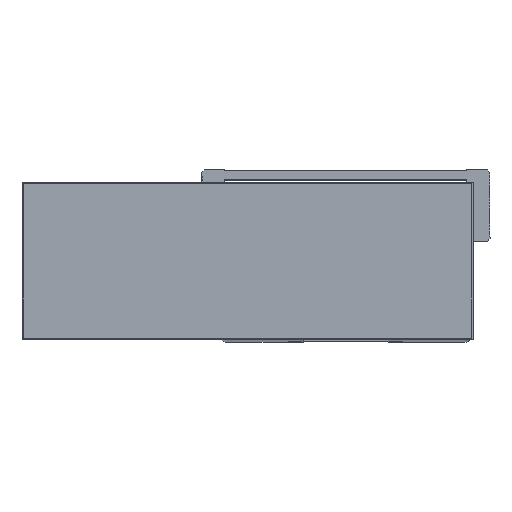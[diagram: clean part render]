
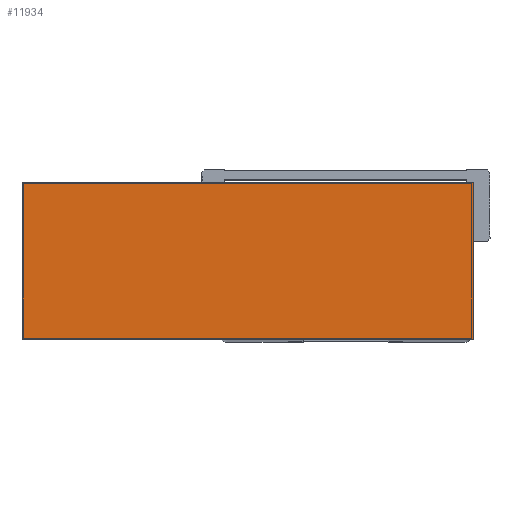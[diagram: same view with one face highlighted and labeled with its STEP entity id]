
A CAD part, top view. The second image highlights one B-rep face of the part: STEP entity #11934.
In plain terms, the highlighted planar face has unit normal (0, 0, 1).
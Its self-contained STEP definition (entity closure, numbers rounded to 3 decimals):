
#755 = DIRECTION ( 'NONE',  ( 0., -1., 0. ) ) ;
#3586 = DIRECTION ( 'NONE',  ( -1., 0., 0. ) ) ;
#5031 = VERTEX_POINT ( 'NONE', #17246 ) ;
#5321 = CARTESIAN_POINT ( 'NONE',  ( 0., 109., 70. ) ) ;
#7293 = VECTOR ( 'NONE', #33624, 1000. ) ;
#9044 = VECTOR ( 'NONE', #32245, 1000. ) ;
#10205 = CARTESIAN_POINT ( 'NONE',  ( 0., 0., 70. ) ) ;
#11934 = ADVANCED_FACE ( 'NONE', ( #13000 ), #19141, .F. ) ;
#12474 = VERTEX_POINT ( 'NONE', #19221 ) ;
#13000 = FACE_OUTER_BOUND ( 'NONE', #38292, .T. ) ;
#16284 = CARTESIAN_POINT ( 'NONE',  ( 0., 0., 70. ) ) ;
#16906 = EDGE_CURVE ( 'NONE', #12474, #38290, #28155, .T. ) ;
#17246 = CARTESIAN_POINT ( 'NONE',  ( 0., 109., 70. ) ) ;
#17317 = LINE ( 'NONE', #10205, #9044 ) ;
#19141 = PLANE ( 'NONE',  #19644 ) ;
#19221 = CARTESIAN_POINT ( 'NONE',  ( 313., 0., 70. ) ) ;
#19644 = AXIS2_PLACEMENT_3D ( 'NONE', #31703, #22277, #3586 ) ;
#20732 = VECTOR ( 'NONE', #35392, 1000. ) ;
#21128 = VECTOR ( 'NONE', #755, 1000. ) ;
#22232 = CARTESIAN_POINT ( 'NONE',  ( 313., 109., 70. ) ) ;
#22277 = DIRECTION ( 'NONE',  ( 0., 0., -1. ) ) ;
#23811 = EDGE_CURVE ( 'NONE', #24776, #12474, #17317, .T. ) ;
#23871 = LINE ( 'NONE', #5321, #7293 ) ;
#24776 = VERTEX_POINT ( 'NONE', #37495 ) ;
#26868 = ORIENTED_EDGE ( 'NONE', *, *, #40769, .T. ) ;
#27065 = EDGE_CURVE ( 'NONE', #38290, #5031, #23871, .T. ) ;
#27135 = ORIENTED_EDGE ( 'NONE', *, *, #23811, .T. ) ;
#28155 = LINE ( 'NONE', #35527, #20732 ) ;
#31703 = CARTESIAN_POINT ( 'NONE',  ( 0., 0., 70. ) ) ;
#32245 = DIRECTION ( 'NONE',  ( 1., 0., 0. ) ) ;
#33624 = DIRECTION ( 'NONE',  ( -1., 0., 0. ) ) ;
#35392 = DIRECTION ( 'NONE',  ( 0., 1., 0. ) ) ;
#35527 = CARTESIAN_POINT ( 'NONE',  ( 313., 0., 70. ) ) ;
#35599 = ORIENTED_EDGE ( 'NONE', *, *, #27065, .T. ) ;
#37495 = CARTESIAN_POINT ( 'NONE',  ( 0., 0., 70. ) ) ;
#38290 = VERTEX_POINT ( 'NONE', #22232 ) ;
#38292 = EDGE_LOOP ( 'NONE', ( #26868, #27135, #40110, #35599 ) ) ;
#38983 = LINE ( 'NONE', #16284, #21128 ) ;
#40110 = ORIENTED_EDGE ( 'NONE', *, *, #16906, .T. ) ;
#40769 = EDGE_CURVE ( 'NONE', #5031, #24776, #38983, .T. ) ;
